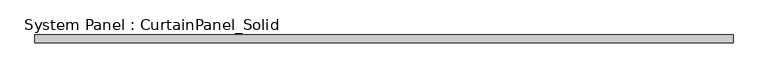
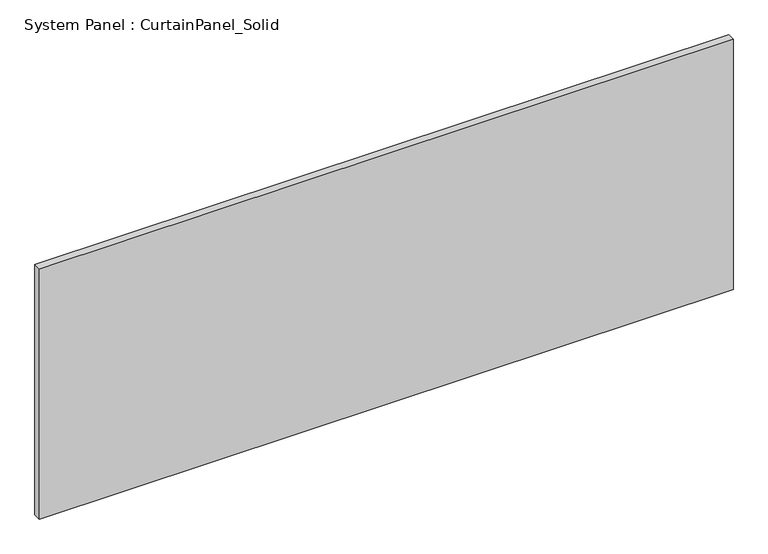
"""IFC4 building model written with IfcOpenShell, lengths in millimetres: plate geometry, System Panel : CurtainPanel_Solid."""

from ifc_helpers import new_model, si_unit, origin, origin_with_axes, place, context, project, spatial, polyline, outline, extrude, source, transform, mapped, element, save


def system_panel_curtainpanel_solid_5b1e2b3f(model_context):
    return source(origin(), model_context, "Body", "SweptSolid", [
        extrude(outline(polyline([(1113.6000001, -12.5), (-1113.6000001, -12.5), (-1113.6000001, 12.5), (1113.6000001, 12.5), (1113.6000001, -12.5)])), origin_with_axes(), (0.0, 0.0, 1.0), 850.0),
    ])


if __name__ == "__main__":
    model = new_model("IFC4")
    model_context = context("Model", 3, world=origin())
    ifc_project = project(units=[si_unit("LENGTHUNIT", "METRE", prefix="MILLI")], contexts=[model_context])
    site = spatial("IfcSite", under=ifc_project)
    building = spatial("IfcBuilding", under=site)
    placement = place(None, origin())
    system_panel_curtainpanel_solid_shape = system_panel_curtainpanel_solid_5b1e2b3f(model_context)
    element("IfcPlate", 1, ObjectType="System Panel : CurtainPanel_Solid", at=placement, inside=building, context=model_context, shape_type="MappedRepresentation", body=[
        mapped(system_panel_curtainpanel_solid_shape, transform((0.0, 0.0, 0.0), x_axis=(1.0, 0.0, 0.0), y_axis=(0.0, 1.0, 0.0), z_axis=(0.0, 0.0, 1.0))),
    ])
    save(model, "model.ifc")
